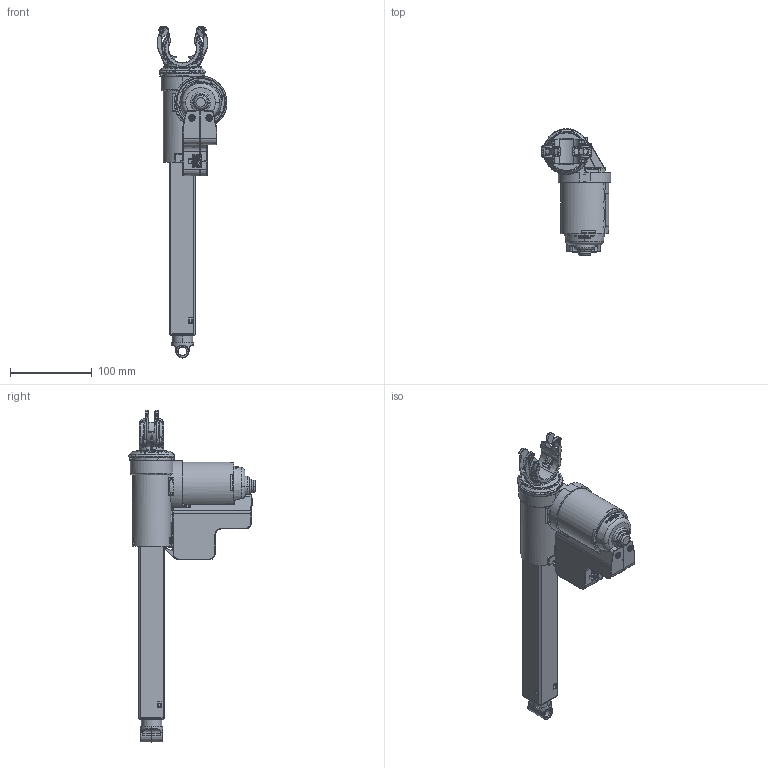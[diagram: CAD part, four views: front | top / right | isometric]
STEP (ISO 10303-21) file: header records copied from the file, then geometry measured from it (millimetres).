
FILE_DESCRIPTION((''),'2;1');
FILE_NAME('1026W4000','2021-11-05T13:24:01',('uscr'),(''),'CREO PARAMETRIC BY PTC INC, 2020454','CREO PARAMETRIC BY PTC INC, 2020454','');
FILE_SCHEMA(('AUTOMOTIVE_DESIGN { 1 0 10303 214 1 1 1 1 }'));
Products named in the file (1): 1026W4000
Bounding box: 85.48 x 154.75 x 405.96 mm (x, y, z)
Volume: 676190 mm3; surface area: 157830.9 mm2
Topology: 1 solids, 3 shells, 4821 faces, 13375 edges, 8598 vertices
Faces by surface type: plane 2388, cylinder 1149, torus 439, bspline 383, cone 195, extrusion 145, sphere 122
Entity records: 194128 total; most frequent: CARTESIAN_POINT 73222, ORIENTED_EDGE 26562, DIRECTION 21865, EDGE_CURVE 13281, VERTEX_POINT 8598, AXIS2_PLACEMENT_3D 7755, VECTOR 6355, LINE 6210
